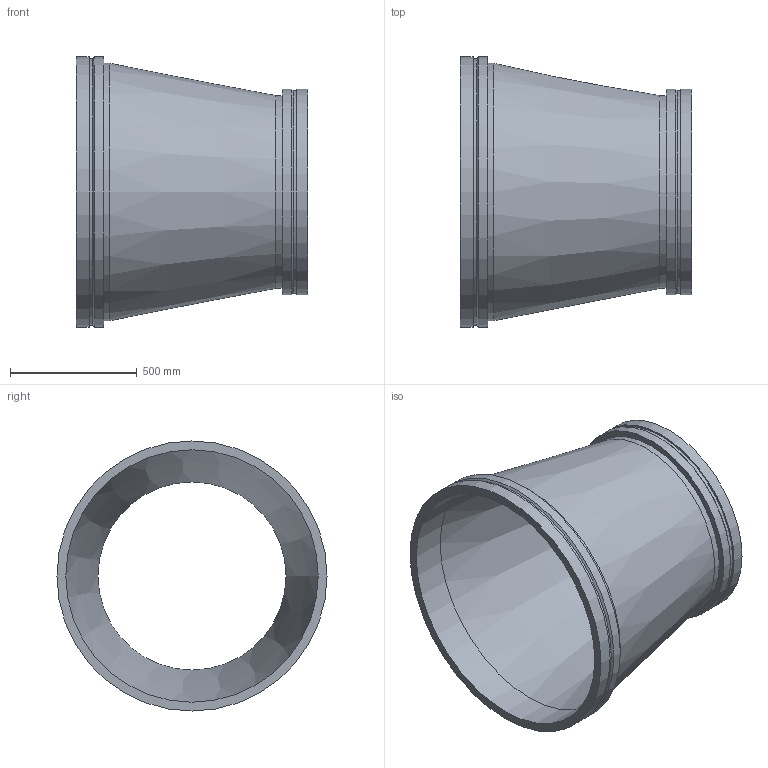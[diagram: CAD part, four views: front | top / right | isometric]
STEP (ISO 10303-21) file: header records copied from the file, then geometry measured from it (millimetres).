
FILE_DESCRIPTION(/* description */ ('VIC REDUCER CONCENTRIC No W50 VR','CAx-IF Rec.Pracs.---Representation and Presentation of Product Manufacturing Information (PMI)---4.0---2014-10-13'),/* implementation_level */ '2;1');
FILE_NAME(/* name */ 'C:\Users\kkamble\AppData\Roaming\Autodesk\ApplicationPlugins\Back Up\Victaulic_Vic-Ring_Reducer Concentric_No W50 VR (AGR)\Victaulic_Vic-Ring_Reducer Concentric_No W50 VR (AGR)_40.0x30.0 (1000x750).stp',/* time_stamp */ '2020-09-10T11:47:17+05:00',/* author */ ('cps_temp'),/* organization */ ('Victaulic'),/* preprocessor_version */ 'ST-DEVELOPER v17.2',/* originating_system */ 'Autodesk Inventor 2019',/* authorisation */ '');
FILE_SCHEMA (('AP242_MANAGED_MODEL_BASED_3D_ENGINEERING_MIM_LF { 1 0 10303 442 1 1 4 }'));
Length unit declared in the file: inch
Products named in the file (1): W50 VR-40.0x30.0
Bounding box: 914.4 x 1066.8 x 1066.8 mm (x, y, z)
Volume: 38673034.2 mm3; surface area: 5567344.3 mm2
Topology: 1 solids, 1 shells, 20 faces, 54 edges, 40 vertices
Faces by surface type: cylinder 10, plane 6, cone 4
Full cylindrical faces by diameter (mm): 742.95 x1, 762 x1, 798.322 x1, 812.8 x2, 996.95 x1, 1016 x1, 1050.925 x1, 1066.8 x2
Entity records: 830 total; most frequent: DIRECTION 162, CARTESIAN_POINT 132, ORIENTED_EDGE 108, AXIS2_PLACEMENT_3D 74, EDGE_CURVE 54, CIRCLE 40, VERTEX_POINT 40, EDGE_LOOP 26
